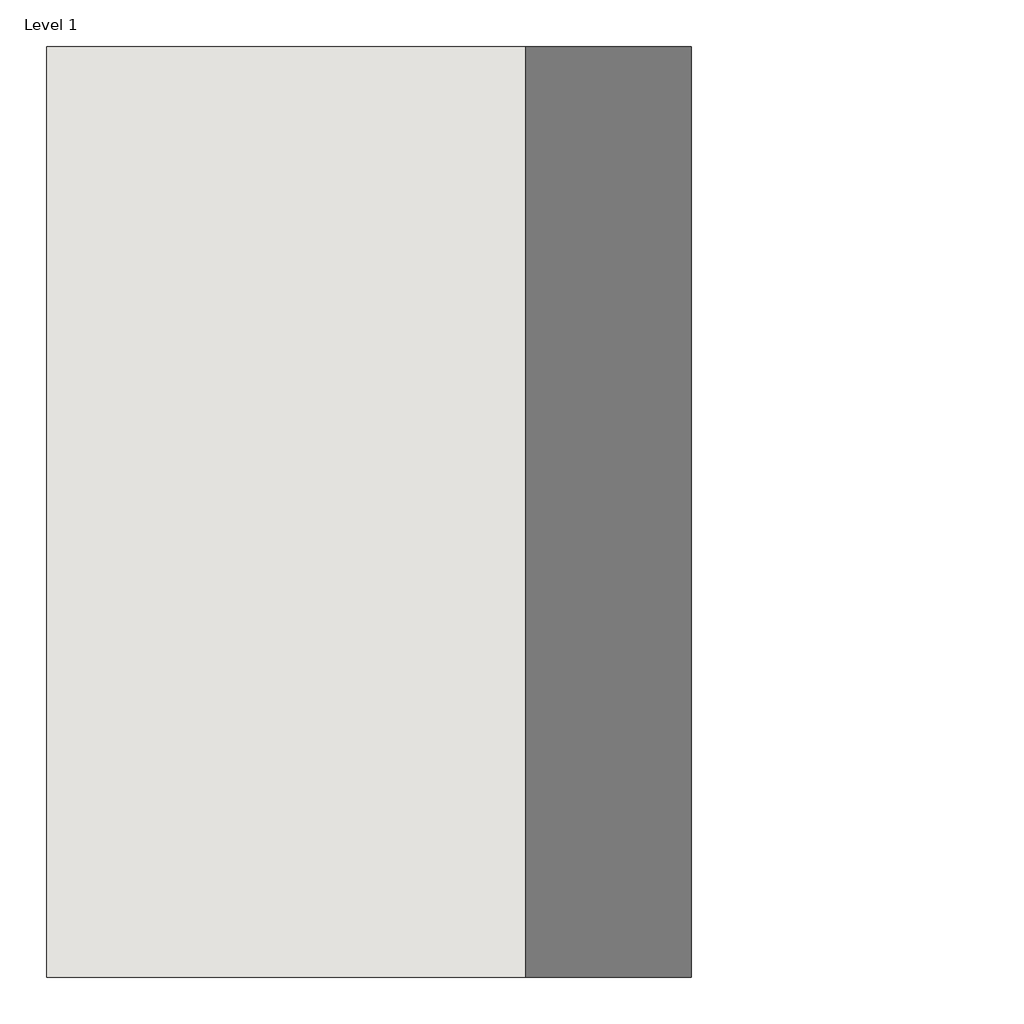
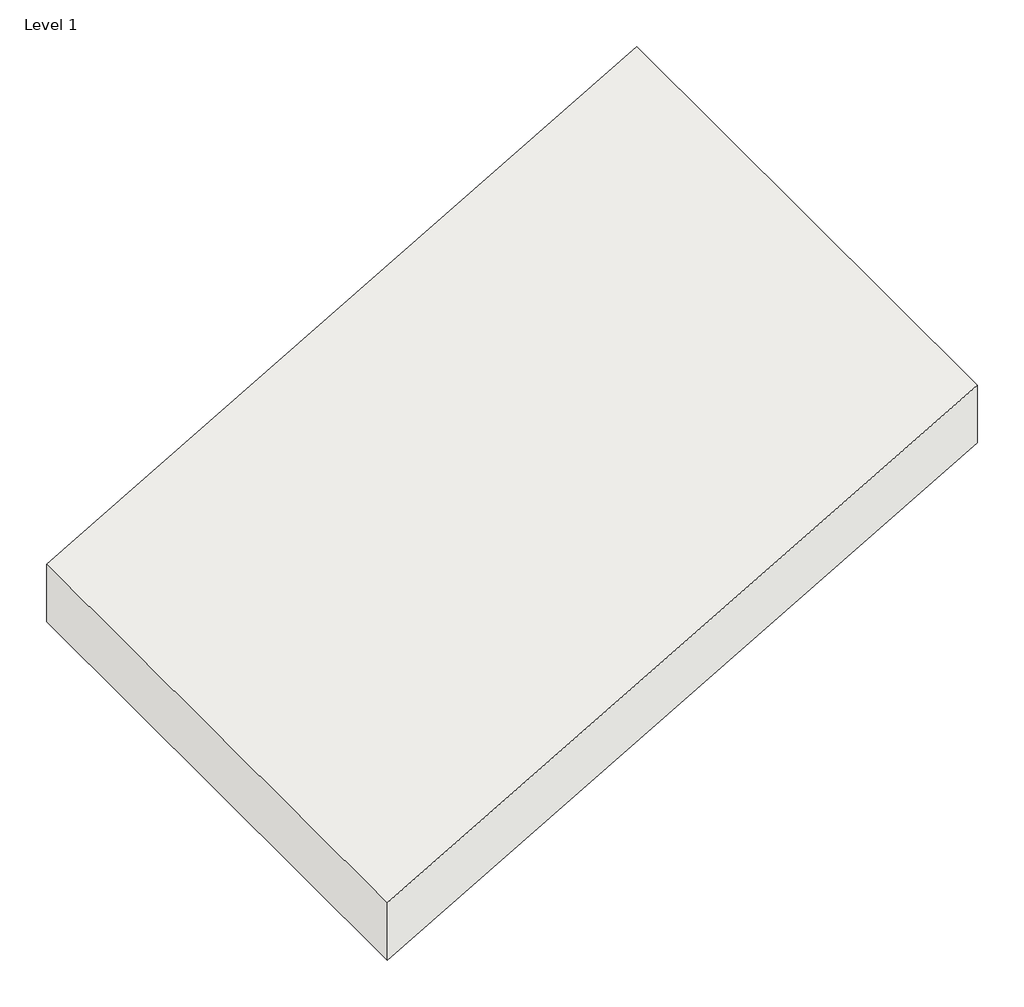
# One storey: 1 roof.
"""IFC4 building model written with IfcOpenShell, lengths in millimetres."""

from ifc_helpers import new_model, si_unit, frame, origin, place, context, project, spatial, polyline, outline, extrude, element, save

model = new_model("IFC4")

# Units and contexts
model_context = context("Model", 3, world=origin())
ifc_project = project(units=[si_unit("LENGTHUNIT", "METRE", prefix="MILLI")], contexts=[model_context])

# Site, building, storey
site = spatial("IfcSite", under=ifc_project)
building = spatial("IfcBuilding", under=site)
storey = spatial("IfcBuildingStorey", under=building, Name="Level 1", Elevation=0.0)

# Roof
placement = place(None, origin())
element("IfcRoof", 1, ObjectType="RIGIPS - 4.70.03 - REI 60 (68)", at=placement, inside=storey, context=model_context, shape_type="SweptSolid", body=[
    extrude(outline(polyline([(2040.9332016, 1500.0), (308.882394, -1500.0), (0.0, -1500.0), (1732.0508076, 1500.0), (2040.9332016, 1500.0)])), frame((0.0, -1500.0, 0.0), z_axis=(0.0, 1.0, 0.0), x_axis=(0.0, 0.0, 1.0)), (0.0, 0.0, 1.0), 3000.0),
])

save(model, "model.ifc")
